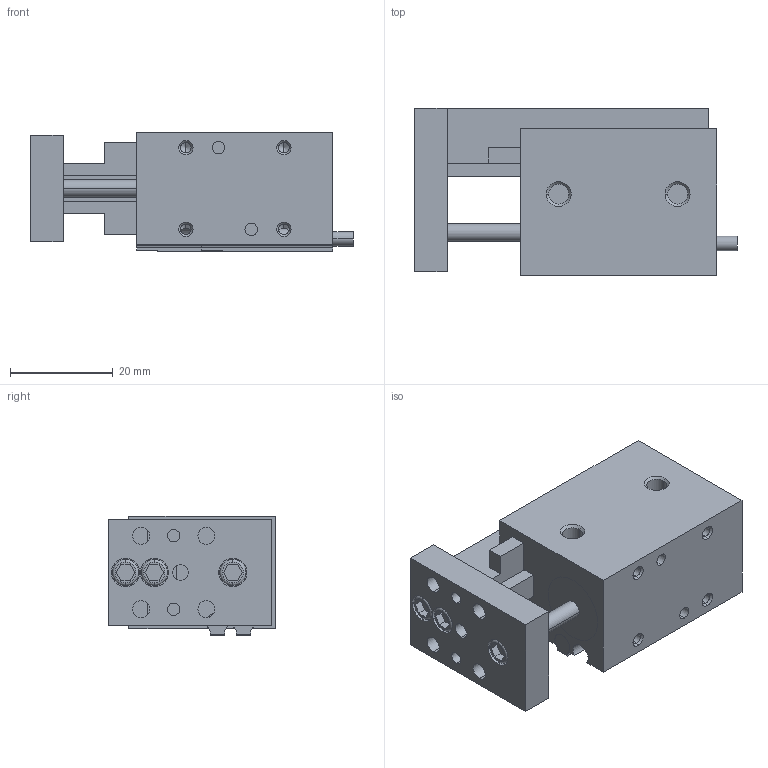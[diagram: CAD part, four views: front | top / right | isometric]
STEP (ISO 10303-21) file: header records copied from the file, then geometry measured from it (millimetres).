
FILE_DESCRIPTION (( 'STEP AP203' ), '1' );
FILE_NAME ('AGMS-1-1 EXTENDED in MM.STEP', '2014-11-06T14:56:41', ( 'setup' ), ( '' ), 'SwSTEP 2.0', 'SolidWorks 2013', '' );
FILE_SCHEMA (( 'CONFIG_CONTROL_DESIGN' ));
Length unit declared in the file: millimetre
Products named in the file (7): AGMS-1-1 BODY; AGMS-1-1 CUSHION; AGMS-1-1 RAIL; AGMS-1-1 TOOL PLATE; AGMS-1-1 PROD; AGMS-1-1 SENSOR; AGMS-1-1 EXTENDED in MM
Assembly tree (7 placements, depth 2):
  AGMS-1-1 EXTENDED in MM
    AGMS-1-1 BODY
    AGMS-1-1 CUSHION
    AGMS-1-1 RAIL
    AGMS-1-1 TOOL PLATE
    AGMS-1-1 PROD
    AGMS-1-1 SENSOR  x2
Bounding box: 62.75 x 32.49 x 23.2 mm (x, y, z)
Volume: 29759.5 mm3; surface area: 15279.5 mm2
Topology: 7 solids, 7 shells, 293 faces, 679 edges, 428 vertices
Faces by surface type: plane 127, cylinder 112, cone 46, torus 8
Entity records: 8422 total; most frequent: CARTESIAN_POINT 1399, DIRECTION 1397, ORIENTED_EDGE 1212, EDGE_CURVE 606, AXIS2_PLACEMENT_3D 526, VERTEX_POINT 388, LINE 345, VECTOR 345
